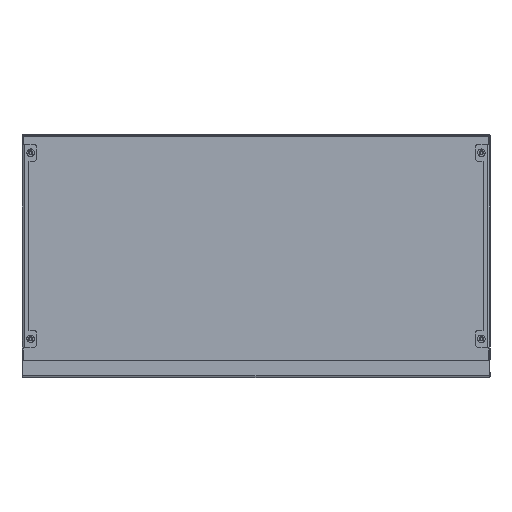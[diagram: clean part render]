
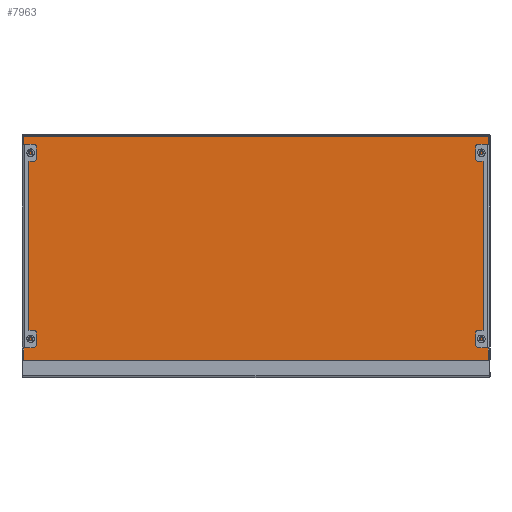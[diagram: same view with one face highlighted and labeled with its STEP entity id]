
A CAD part, front view. The second image highlights one B-rep face of the part: STEP entity #7963.
In plain terms, the highlighted planar face has unit normal (0, -1, 0).
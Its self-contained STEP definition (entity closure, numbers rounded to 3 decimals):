
#107 = LINE ( 'NONE', #2052, #5360 ) ;
#148 = CARTESIAN_POINT ( 'NONE',  ( 102.117, -1.4, 102.117 ) ) ;
#287 = CARTESIAN_POINT ( 'NONE',  ( 399.466, -1.4, 193.466 ) ) ;
#310 = ORIENTED_EDGE ( 'NONE', *, *, #3239, .F. ) ;
#405 = ORIENTED_EDGE ( 'NONE', *, *, #5727, .F. ) ;
#458 = CARTESIAN_POINT ( 'NONE',  ( -399.466, -1.4, 193.466 ) ) ;
#544 = LINE ( 'NONE', #3092, #7772 ) ;
#558 = ORIENTED_EDGE ( 'NONE', *, *, #6933, .F. ) ;
#742 = CARTESIAN_POINT ( 'NONE',  ( -399.466, -1.4, -194.383 ) ) ;
#856 = EDGE_CURVE ( 'NONE', #7900, #5440, #2486, .T. ) ;
#869 = LINE ( 'NONE', #6007, #4794 ) ;
#1029 = DIRECTION ( 'NONE',  ( -1., 0., 0. ) ) ;
#1033 = AXIS2_PLACEMENT_3D ( 'NONE', #3964, #1414, #2644 ) ;
#1104 = DIRECTION ( 'NONE',  ( -1., 0., 0. ) ) ;
#1346 = DIRECTION ( 'NONE',  ( 1., 0., 0. ) ) ;
#1372 = CARTESIAN_POINT ( 'NONE',  ( -398.881, -1.4, 193.6 ) ) ;
#1414 = DIRECTION ( 'NONE',  ( 0., 1., 0. ) ) ;
#1428 = DIRECTION ( 'NONE',  ( 0., -1., 0. ) ) ;
#1504 = CARTESIAN_POINT ( 'NONE',  ( 398.881, -1.4, 193.6 ) ) ;
#1547 = VECTOR ( 'NONE', #6335, 1000. ) ;
#1811 = ORIENTED_EDGE ( 'NONE', *, *, #5827, .T. ) ;
#1834 = EDGE_LOOP ( 'NONE', ( #6842, #2583, #1811, #7221, #8036, #558, #6173, #405, #310, #3982, #4712, #7402 ) ) ;
#1907 = DIRECTION ( 'NONE',  ( 1., 0., 0. ) ) ;
#1919 = CARTESIAN_POINT ( 'NONE',  ( 399.6, -1.4, 192.881 ) ) ;
#1947 = VERTEX_POINT ( 'NONE', #5433 ) ;
#2040 = DIRECTION ( 'NONE',  ( 0., -1., 0. ) ) ;
#2052 = CARTESIAN_POINT ( 'NONE',  ( -399.6, -1.4, -196.799 ) ) ;
#2074 = CARTESIAN_POINT ( 'NONE',  ( -399.6, -1.4, -193.798 ) ) ;
#2090 = PLANE ( 'NONE',  #1033 ) ;
#2204 = AXIS2_PLACEMENT_3D ( 'NONE', #742, #1428, #1346 ) ;
#2243 = VECTOR ( 'NONE', #2736, 1000. ) ;
#2277 = CARTESIAN_POINT ( 'NONE',  ( -102.117, -1.4, 102.117 ) ) ;
#2349 = AXIS2_PLACEMENT_3D ( 'NONE', #458, #2450, #5082 ) ;
#2351 = AXIS2_PLACEMENT_3D ( 'NONE', #287, #4786, #4663 ) ;
#2390 = VERTEX_POINT ( 'NONE', #7155 ) ;
#2450 = DIRECTION ( 'NONE',  ( 0., 1., 0. ) ) ;
#2486 = CIRCLE ( 'NONE', #2349, 0.6 ) ;
#2537 = CIRCLE ( 'NONE', #2943, 0.6 ) ;
#2572 = EDGE_CURVE ( 'NONE', #5690, #7498, #7299, .T. ) ;
#2583 = ORIENTED_EDGE ( 'NONE', *, *, #4066, .T. ) ;
#2644 = DIRECTION ( 'NONE',  ( 0., 0., 1. ) ) ;
#2661 = CARTESIAN_POINT ( 'NONE',  ( 399.6, -1.4, -193.798 ) ) ;
#2736 = DIRECTION ( 'NONE',  ( 0.707, 0., -0.707 ) ) ;
#2755 = LINE ( 'NONE', #4155, #3596 ) ;
#2856 = DIRECTION ( 'NONE',  ( 0., -1., 0. ) ) ;
#2939 = CARTESIAN_POINT ( 'NONE',  ( 399.466, -1.4, -194.383 ) ) ;
#2943 = AXIS2_PLACEMENT_3D ( 'NONE', #2939, #2040, #1907 ) ;
#2981 = CARTESIAN_POINT ( 'NONE',  ( 399.466, -1.4, 193.466 ) ) ;
#3092 = CARTESIAN_POINT ( 'NONE',  ( 402.5, -1.4, -195.299 ) ) ;
#3119 = CARTESIAN_POINT ( 'NONE',  ( 398.866, -1.4, 193.466 ) ) ;
#3198 = VERTEX_POINT ( 'NONE', #1504 ) ;
#3239 = EDGE_CURVE ( 'NONE', #4766, #1947, #7422, .T. ) ;
#3515 = DIRECTION ( 'NONE',  ( -1., 0., 0. ) ) ;
#3596 = VECTOR ( 'NONE', #3515, 1000. ) ;
#3696 = EDGE_CURVE ( 'NONE', #2390, #4766, #544, .T. ) ;
#3964 = CARTESIAN_POINT ( 'NONE',  ( 402.5, -1.4, 196.5 ) ) ;
#3982 = ORIENTED_EDGE ( 'NONE', *, *, #3696, .F. ) ;
#4066 = EDGE_CURVE ( 'NONE', #6822, #6297, #4927, .T. ) ;
#4092 = LINE ( 'NONE', #148, #2243 ) ;
#4155 = CARTESIAN_POINT ( 'NONE',  ( 402.5, -1.4, 193.6 ) ) ;
#4297 = DIRECTION ( 'NONE',  ( 0., 1., 0. ) ) ;
#4309 = VERTEX_POINT ( 'NONE', #2661 ) ;
#4429 = AXIS2_PLACEMENT_3D ( 'NONE', #7323, #2856, #8130 ) ;
#4493 = EDGE_CURVE ( 'NONE', #6822, #4309, #869, .T. ) ;
#4639 = DIRECTION ( 'NONE',  ( 0., 0., 1. ) ) ;
#4663 = DIRECTION ( 'NONE',  ( -1., 0., 0. ) ) ;
#4712 = ORIENTED_EDGE ( 'NONE', *, *, #6938, .F. ) ;
#4766 = VERTEX_POINT ( 'NONE', #4854 ) ;
#4786 = DIRECTION ( 'NONE',  ( 0., 1., 0. ) ) ;
#4794 = VECTOR ( 'NONE', #7378, 1000. ) ;
#4854 = CARTESIAN_POINT ( 'NONE',  ( -399.533, -1.4, -195.299 ) ) ;
#4927 = CIRCLE ( 'NONE', #2351, 0.6 ) ;
#5082 = DIRECTION ( 'NONE',  ( -1., 0., 0. ) ) ;
#5360 = VECTOR ( 'NONE', #4639, 1000. ) ;
#5431 = EDGE_CURVE ( 'NONE', #4309, #6055, #2537, .T. ) ;
#5433 = CARTESIAN_POINT ( 'NONE',  ( -399.042, -1.4, -194.807 ) ) ;
#5440 = VERTEX_POINT ( 'NONE', #7096 ) ;
#5690 = VERTEX_POINT ( 'NONE', #7207 ) ;
#5727 = EDGE_CURVE ( 'NONE', #1947, #5690, #6944, .T. ) ;
#5827 = EDGE_CURVE ( 'NONE', #6297, #3198, #6575, .T. ) ;
#6007 = CARTESIAN_POINT ( 'NONE',  ( 399.6, -1.4, 193.6 ) ) ;
#6055 = VERTEX_POINT ( 'NONE', #6144 ) ;
#6144 = CARTESIAN_POINT ( 'NONE',  ( 399.042, -1.4, -194.807 ) ) ;
#6173 = ORIENTED_EDGE ( 'NONE', *, *, #2572, .F. ) ;
#6297 = VERTEX_POINT ( 'NONE', #3119 ) ;
#6335 = DIRECTION ( 'NONE',  ( 0.707, 0., 0.707 ) ) ;
#6549 = FACE_OUTER_BOUND ( 'NONE', #1834, .T. ) ;
#6575 = CIRCLE ( 'NONE', #6838, 0.6 ) ;
#6822 = VERTEX_POINT ( 'NONE', #1919 ) ;
#6838 = AXIS2_PLACEMENT_3D ( 'NONE', #2981, #4297, #1029 ) ;
#6842 = ORIENTED_EDGE ( 'NONE', *, *, #4493, .F. ) ;
#6933 = EDGE_CURVE ( 'NONE', #7498, #5440, #107, .T. ) ;
#6938 = EDGE_CURVE ( 'NONE', #6055, #2390, #4092, .T. ) ;
#6944 = CIRCLE ( 'NONE', #2204, 0.6 ) ;
#7096 = CARTESIAN_POINT ( 'NONE',  ( -399.6, -1.4, 192.881 ) ) ;
#7155 = CARTESIAN_POINT ( 'NONE',  ( 399.533, -1.4, -195.299 ) ) ;
#7207 = CARTESIAN_POINT ( 'NONE',  ( -398.866, -1.4, -194.383 ) ) ;
#7221 = ORIENTED_EDGE ( 'NONE', *, *, #7382, .T. ) ;
#7299 = CIRCLE ( 'NONE', #4429, 0.6 ) ;
#7323 = CARTESIAN_POINT ( 'NONE',  ( -399.466, -1.4, -194.383 ) ) ;
#7378 = DIRECTION ( 'NONE',  ( 0., 0., -1. ) ) ;
#7382 = EDGE_CURVE ( 'NONE', #3198, #7900, #2755, .T. ) ;
#7402 = ORIENTED_EDGE ( 'NONE', *, *, #5431, .F. ) ;
#7422 = LINE ( 'NONE', #2277, #1547 ) ;
#7498 = VERTEX_POINT ( 'NONE', #2074 ) ;
#7772 = VECTOR ( 'NONE', #1104, 1000. ) ;
#7900 = VERTEX_POINT ( 'NONE', #1372 ) ;
#7963 = ADVANCED_FACE ( 'NONE', ( #6549 ), #2090, .F. ) ;
#8036 = ORIENTED_EDGE ( 'NONE', *, *, #856, .T. ) ;
#8130 = DIRECTION ( 'NONE',  ( 1., 0., 0. ) ) ;
